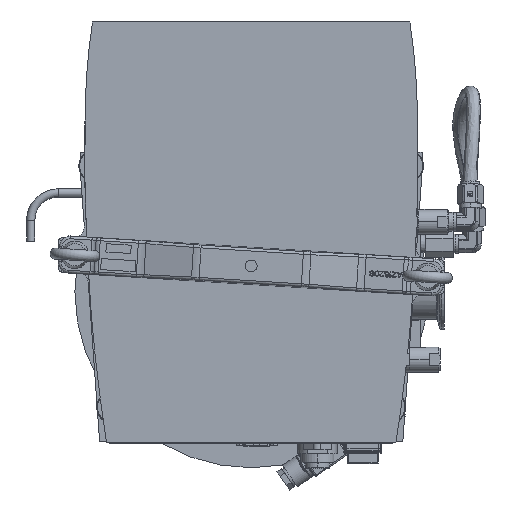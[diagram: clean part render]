
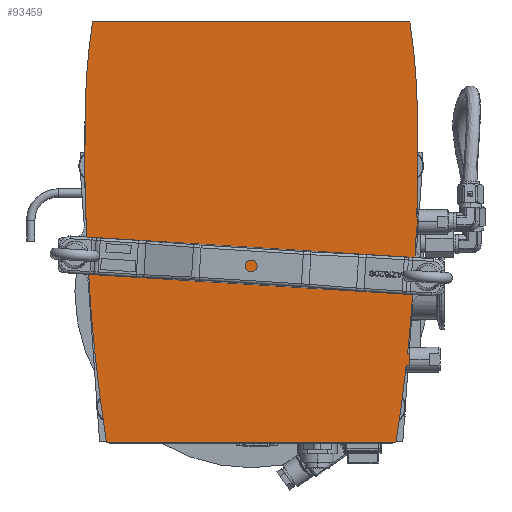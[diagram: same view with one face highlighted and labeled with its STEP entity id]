
A CAD part, front view. The second image highlights one B-rep face of the part: STEP entity #93459.
In plain terms, the highlighted planar face has unit normal (0, -1, 0).
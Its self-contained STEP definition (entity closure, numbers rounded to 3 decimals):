
#8896=CARTESIAN_POINT('',(120.156,-133.95,54.573));
#8906=CARTESIAN_POINT('',(119.869,-133.95,46.327));
#8995=DIRECTION('',(-1.,0.,0.));
#8996=VECTOR('',#8995,1.131);
#8997=CARTESIAN_POINT('',(121.,-133.95,46.327));
#8998=LINE('',#8997,#8996);
#9013=DIRECTION('',(0.,0.,-1.));
#9014=VECTOR('',#9013,8.246);
#9015=CARTESIAN_POINT('',(121.,-133.95,54.573));
#9016=LINE('',#9015,#9014);
#9086=CARTESIAN_POINT('',(-1177.573,-133.95,90.45));
#9087=DIRECTION('',(0.,-1.,0.));
#9088=DIRECTION('',(0.995,0.,-0.105));
#9089=AXIS2_PLACEMENT_3D('',#9086,#9087,#9088);
#9091=DIRECTION('',(-1.,0.,0.));
#9092=VECTOR('',#9091,1.631);
#9093=CARTESIAN_POINT('',(115.,-133.95,-45.427));
#9094=LINE('',#9093,#9092);
#9095=CARTESIAN_POINT('',(-1177.573,-133.95,90.45));
#9096=DIRECTION('',(0.,-1.,0.));
#9097=DIRECTION('',(0.988,0.,-0.154));
#9098=AXIS2_PLACEMENT_3D('',#9095,#9096,#9097);
#9100=CARTESIAN_POINT('',(104.572,-133.95,-109.05));
#9101=DIRECTION('',(0.,-1.,0.));
#9102=DIRECTION('',(0.,0.,-1.));
#9103=AXIS2_PLACEMENT_3D('',#9100,#9101,#9102);
#9105=DIRECTION('',(1.,0.,0.));
#9106=VECTOR('',#9105,209.144);
#9107=CARTESIAN_POINT('',(-104.572,-133.95,-109.55));
#9108=LINE('',#9107,#9106);
#9109=CARTESIAN_POINT('',(-104.572,-133.95,-109.05));
#9110=DIRECTION('',(0.,-1.,0.));
#9111=DIRECTION('',(-0.988,0.,-0.154));
#9112=AXIS2_PLACEMENT_3D('',#9109,#9110,#9111);
#9114=CARTESIAN_POINT('',(1177.573,-133.95,90.45));
#9115=DIRECTION('',(0.,-1.,0.));
#9116=DIRECTION('',(-0.997,0.,-0.084));
#9117=AXIS2_PLACEMENT_3D('',#9114,#9115,#9116);
#9119=CARTESIAN_POINT('',(1281.834,-133.95,99.195));
#9120=DIRECTION('',(0.,-1.,0.));
#9121=DIRECTION('',(-1.,0.,0.028));
#9122=AXIS2_PLACEMENT_3D('',#9119,#9120,#9121);
#9124=CARTESIAN_POINT('',(340.523,-133.95,125.45));
#9125=DIRECTION('',(0.,-1.,0.));
#9126=DIRECTION('',(-0.988,0.,0.152));
#9127=AXIS2_PLACEMENT_3D('',#9124,#9125,#9126);
#9129=DIRECTION('',(-1.,0.,0.));
#9130=VECTOR('',#9129,230.309);
#9131=CARTESIAN_POINT('',(115.155,-133.95,195.45));
#9132=LINE('',#9131,#9130);
#9133=CARTESIAN_POINT('',(-340.523,-133.95,125.45));
#9134=DIRECTION('',(0.,-1.,0.));
#9135=DIRECTION('',(1.,0.,0.028));
#9136=AXIS2_PLACEMENT_3D('',#9133,#9134,#9135);
#9138=CARTESIAN_POINT('',(-1282.134,-133.95,99.203));
#9139=DIRECTION('',(0.,-1.,0.));
#9140=DIRECTION('',(0.999,0.,-0.032));
#9141=AXIS2_PLACEMENT_3D('',#9138,#9139,#9140);
#9143=DIRECTION('',(-1.,0.,0.));
#9144=VECTOR('',#9143,0.844);
#9145=CARTESIAN_POINT('',(121.,-133.95,54.573));
#9146=LINE('',#9145,#9144);
#9147=CARTESIAN_POINT('',(-1282.134,-133.95,99.203));
#9148=DIRECTION('',(0.,-1.,0.));
#9149=DIRECTION('',(0.997,0.,-0.083));
#9150=AXIS2_PLACEMENT_3D('',#9147,#9148,#9149);
#9173=CARTESIAN_POINT('',(113.369,-133.95,-45.427));
#9179=CARTESIAN_POINT('',(112.474,-133.95,-53.673));
#9220=DIRECTION('',(-1.,0.,0.));
#9221=VECTOR('',#9220,2.526);
#9222=CARTESIAN_POINT('',(115.,-133.95,-53.673));
#9223=LINE('',#9222,#9221);
#9315=DIRECTION('',(0.,0.,-1.));
#9316=VECTOR('',#9315,8.246);
#9317=CARTESIAN_POINT('',(115.,-133.95,-45.427));
#9318=LINE('',#9317,#9316);
#73963=CARTESIAN_POINT('',(-115.155,-133.95,195.45));
#73964=CARTESIAN_POINT('',(-120.321,-133.95,138.304));
#73965=VERTEX_POINT('',#73963);
#73966=VERTEX_POINT('',#73964);
#73967=CARTESIAN_POINT('',(-115.958,-133.95,-18.043));
#73968=VERTEX_POINT('',#73967);
#73969=CARTESIAN_POINT('',(-105.066,-133.95,-109.127));
#73970=VERTEX_POINT('',#73969);
#73971=CARTESIAN_POINT('',(-104.572,-133.95,-109.55));
#73972=VERTEX_POINT('',#73971);
#73973=CARTESIAN_POINT('',(104.572,-133.95,-109.55));
#73974=VERTEX_POINT('',#73973);
#73975=CARTESIAN_POINT('',(105.066,-133.95,-109.127));
#73976=VERTEX_POINT('',#73975);
#73977=CARTESIAN_POINT('',(120.321,-133.95,138.296));
#73978=CARTESIAN_POINT('',(115.155,-133.95,195.45));
#73979=VERTEX_POINT('',#73977);
#73980=VERTEX_POINT('',#73978);
#73993=CARTESIAN_POINT('',(115.975,-133.95,-17.837));
#73994=VERTEX_POINT('',#73993);
#74021=CARTESIAN_POINT('',(121.,-133.95,54.573));
#74023=VERTEX_POINT('',#74021);
#74024=CARTESIAN_POINT('',(121.,-133.95,46.327));
#74025=VERTEX_POINT('',#74024);
#74030=VERTEX_POINT('',#8896);
#74031=VERTEX_POINT('',#8906);
#74037=CARTESIAN_POINT('',(115.,-133.95,-45.427));
#74038=CARTESIAN_POINT('',(115.,-133.95,-53.673));
#74039=VERTEX_POINT('',#74037);
#74040=VERTEX_POINT('',#74038);
#74045=VERTEX_POINT('',#9173);
#74046=VERTEX_POINT('',#9179);
#93421=CARTESIAN_POINT('',(0.,-133.95,196.45));
#93422=DIRECTION('',(0.,-1.,0.));
#93423=DIRECTION('',(1.,0.,0.));
#93424=AXIS2_PLACEMENT_3D('',#93421,#93422,#93423);
#93425=PLANE('',#93424);
#93427=ORIENTED_EDGE('',*,*,#93426,.F.);
#93429=ORIENTED_EDGE('',*,*,#93428,.F.);
#93431=ORIENTED_EDGE('',*,*,#93430,.T.);
#93433=ORIENTED_EDGE('',*,*,#93432,.T.);
#93435=ORIENTED_EDGE('',*,*,#93434,.F.);
#93437=ORIENTED_EDGE('',*,*,#93436,.F.);
#93439=ORIENTED_EDGE('',*,*,#93438,.F.);
#93441=ORIENTED_EDGE('',*,*,#93440,.F.);
#93443=ORIENTED_EDGE('',*,*,#93442,.F.);
#93445=ORIENTED_EDGE('',*,*,#93444,.F.);
#93447=ORIENTED_EDGE('',*,*,#93446,.F.);
#93449=ORIENTED_EDGE('',*,*,#93448,.F.);
#93451=ORIENTED_EDGE('',*,*,#93450,.F.);
#93452=ORIENTED_EDGE('',*,*,#93197,.F.);
#93453=ORIENTED_EDGE('',*,*,#93416,.F.);
#93454=ORIENTED_EDGE('',*,*,#93351,.T.);
#93455=ORIENTED_EDGE('',*,*,#93336,.T.);
#93456=ORIENTED_EDGE('',*,*,#93209,.F.);
#93457=EDGE_LOOP('',(#93427,#93429,#93431,#93433,#93435,#93437,#93439,#93441,
#93443,#93445,#93447,#93449,#93451,#93452,#93453,#93454,#93455,#93456));
#93458=FACE_OUTER_BOUND('',#93457,.F.);
#93459=ADVANCED_FACE('',(#93458),#93425,.T.);
#9090=CIRCLE('',#9089,1298.073);
#9099=CIRCLE('',#9098,1298.073);
#9104=CIRCLE('',#9103,0.5);
#9113=CIRCLE('',#9112,0.5);
#9118=CIRCLE('',#9117,1298.073);
#9123=CIRCLE('',#9122,1402.7);
#9128=CIRCLE('',#9127,461.023);
#9137=CIRCLE('',#9136,461.023);
#9142=CIRCLE('',#9141,1403.);
#9151=CIRCLE('',#9150,1403.);
#93197=EDGE_CURVE('',#74030,#73979,#9142,.T.);
#93209=EDGE_CURVE('',#73994,#74031,#9151,.T.);
#93336=EDGE_CURVE('',#74025,#74031,#8998,.T.);
#93351=EDGE_CURVE('',#74023,#74025,#9016,.T.);
#93416=EDGE_CURVE('',#74023,#74030,#9146,.T.);
#93426=EDGE_CURVE('',#74045,#73994,#9090,.T.);
#93428=EDGE_CURVE('',#74039,#74045,#9094,.T.);
#93430=EDGE_CURVE('',#74039,#74040,#9318,.T.);
#93432=EDGE_CURVE('',#74040,#74046,#9223,.T.);
#93434=EDGE_CURVE('',#73976,#74046,#9099,.T.);
#93436=EDGE_CURVE('',#73974,#73976,#9104,.T.);
#93438=EDGE_CURVE('',#73972,#73974,#9108,.T.);
#93440=EDGE_CURVE('',#73970,#73972,#9113,.T.);
#93442=EDGE_CURVE('',#73968,#73970,#9118,.T.);
#93444=EDGE_CURVE('',#73966,#73968,#9123,.T.);
#93446=EDGE_CURVE('',#73965,#73966,#9128,.T.);
#93448=EDGE_CURVE('',#73980,#73965,#9132,.T.);
#93450=EDGE_CURVE('',#73979,#73980,#9137,.T.);
